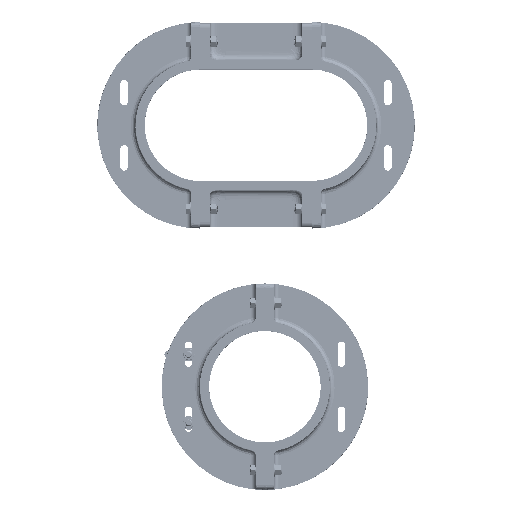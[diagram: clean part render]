
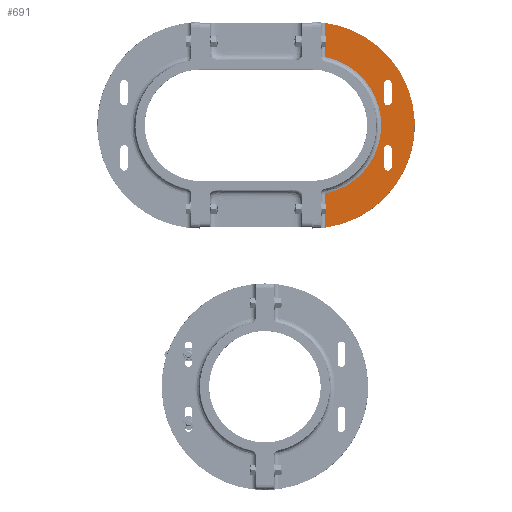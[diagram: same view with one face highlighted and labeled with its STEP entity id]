
A CAD part, top view. The second image highlights one B-rep face of the part: STEP entity #691.
In plain terms, the highlighted planar face has unit normal (0, 0, 1).
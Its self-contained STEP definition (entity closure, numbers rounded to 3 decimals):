
#207=FACE_BOUND('',#7988,.T.);
#208=FACE_BOUND('',#7989,.T.);
#691=ADVANCED_FACE('',(#4326,#207,#208),#58231,.T.);
#4326=FACE_OUTER_BOUND('',#7987,.T.);
#7987=EDGE_LOOP('',(#12514,#12515,#12516,#12517));
#7988=EDGE_LOOP('',(#12518,#12519,#12520,#12521));
#7989=EDGE_LOOP('',(#12522,#12523,#12524,#12525));
#12514=ORIENTED_EDGE('',*,*,#31335,.T.);
#12515=ORIENTED_EDGE('',*,*,#31322,.T.);
#12516=ORIENTED_EDGE('',*,*,#31332,.T.);
#12517=ORIENTED_EDGE('',*,*,#31342,.F.);
#12518=ORIENTED_EDGE('',*,*,#31345,.T.);
#12519=ORIENTED_EDGE('',*,*,#31348,.T.);
#12520=ORIENTED_EDGE('',*,*,#31347,.T.);
#12521=ORIENTED_EDGE('',*,*,#31346,.T.);
#12522=ORIENTED_EDGE('',*,*,#31357,.T.);
#12523=ORIENTED_EDGE('',*,*,#31360,.T.);
#12524=ORIENTED_EDGE('',*,*,#31359,.T.);
#12525=ORIENTED_EDGE('',*,*,#31358,.T.);
#31322=EDGE_CURVE('',#50156,#50158,#40223,.T.);
#31332=EDGE_CURVE('',#50158,#50157,#40226,.T.);
#31335=EDGE_CURVE('',#50155,#50156,#40229,.T.);
#31342=EDGE_CURVE('',#50155,#50157,#40235,.T.);
#31345=EDGE_CURVE('',#50165,#50166,#40238,.T.);
#31346=EDGE_CURVE('',#50167,#50165,#40239,.T.);
#31347=EDGE_CURVE('',#50168,#50167,#40240,.T.);
#31348=EDGE_CURVE('',#50166,#50168,#40241,.T.);
#31357=EDGE_CURVE('',#50173,#50174,#40250,.T.);
#31358=EDGE_CURVE('',#50175,#50173,#40251,.T.);
#31359=EDGE_CURVE('',#50176,#50175,#40252,.T.);
#31360=EDGE_CURVE('',#50174,#50176,#40253,.T.);
#40223=(
BOUNDED_CURVE()
B_SPLINE_CURVE(2,(#80376,#80377,#80378,#80379,#80380),.UNSPECIFIED.,.F.,
 .F.)
B_SPLINE_CURVE_WITH_KNOTS((3,2,3),(-23.248,-18.95,
-14.653),.UNSPECIFIED.)
CURVE()
GEOMETRIC_REPRESENTATION_ITEM()
RATIONAL_B_SPLINE_CURVE((1.,0.753,1.,0.753,1.))
REPRESENTATION_ITEM('')
);
#40226=(
BOUNDED_CURVE()
B_SPLINE_CURVE(1,(#80402,#80403),.UNSPECIFIED.,.F.,.F.)
B_SPLINE_CURVE_WITH_KNOTS((2,2),(0.028,1.866),
 .UNSPECIFIED.)
CURVE()
GEOMETRIC_REPRESENTATION_ITEM()
RATIONAL_B_SPLINE_CURVE((1.,1.))
REPRESENTATION_ITEM('')
);
#40229=(
BOUNDED_CURVE()
B_SPLINE_CURVE(1,(#80410,#80411),.UNSPECIFIED.,.F.,.F.)
B_SPLINE_CURVE_WITH_KNOTS((2,2),(0.21,2.048),
 .UNSPECIFIED.)
CURVE()
GEOMETRIC_REPRESENTATION_ITEM()
RATIONAL_B_SPLINE_CURVE((1.,1.))
REPRESENTATION_ITEM('')
);
#40235=(
BOUNDED_CURVE()
B_SPLINE_CURVE(2,(#80434,#80435,#80436,#80437,#80438),.UNSPECIFIED.,.F.,
 .F.)
B_SPLINE_CURVE_WITH_KNOTS((3,2,3),(0.218,5.378,10.539),
 .UNSPECIFIED.)
CURVE()
GEOMETRIC_REPRESENTATION_ITEM()
RATIONAL_B_SPLINE_CURVE((1.,0.774,1.,0.774,1.))
REPRESENTATION_ITEM('')
);
#40238=(
BOUNDED_CURVE()
B_SPLINE_CURVE(2,(#80445,#80446,#80447,#80448,#80449,#80450,#80451,#80452,
#80453),.UNSPECIFIED.,.F.,.F.)
B_SPLINE_CURVE_WITH_KNOTS((3,2,2,2,3),(1.257,1.414,
1.571,1.728,1.885),.UNSPECIFIED.)
CURVE()
GEOMETRIC_REPRESENTATION_ITEM()
RATIONAL_B_SPLINE_CURVE((1.,0.924,1.,0.924,1.,0.924,
1.,0.924,1.))
REPRESENTATION_ITEM('')
);
#40239=(
BOUNDED_CURVE()
B_SPLINE_CURVE(2,(#80454,#80455,#80456),.UNSPECIFIED.,.F.,.F.)
B_SPLINE_CURVE_WITH_KNOTS((3,3),(0.282,1.257),
 .UNSPECIFIED.)
CURVE()
GEOMETRIC_REPRESENTATION_ITEM()
RATIONAL_B_SPLINE_CURVE((1.,1.,1.))
REPRESENTATION_ITEM('')
);
#40240=(
BOUNDED_CURVE()
B_SPLINE_CURVE(2,(#80457,#80458,#80459,#80460,#80461),.UNSPECIFIED.,.F.,
 .F.)
B_SPLINE_CURVE_WITH_KNOTS((3,2,3),(-0.347,-0.033,
0.282),.UNSPECIFIED.)
CURVE()
GEOMETRIC_REPRESENTATION_ITEM()
RATIONAL_B_SPLINE_CURVE((1.,0.707,1.,0.707,1.))
REPRESENTATION_ITEM('')
);
#40241=(
BOUNDED_CURVE()
B_SPLINE_CURVE(2,(#80462,#80463,#80464),.UNSPECIFIED.,.F.,.F.)
B_SPLINE_CURVE_WITH_KNOTS((3,3),(-1.322,-0.347),
 .UNSPECIFIED.)
CURVE()
GEOMETRIC_REPRESENTATION_ITEM()
RATIONAL_B_SPLINE_CURVE((1.,1.,1.))
REPRESENTATION_ITEM('')
);
#40250=(
BOUNDED_CURVE()
B_SPLINE_CURVE(2,(#80493,#80494,#80495,#80496,#80497,#80498,#80499,#80500,
#80501),.UNSPECIFIED.,.F.,.F.)
B_SPLINE_CURVE_WITH_KNOTS((3,2,2,2,3),(1.257,1.414,
1.571,1.728,1.885),.UNSPECIFIED.)
CURVE()
GEOMETRIC_REPRESENTATION_ITEM()
RATIONAL_B_SPLINE_CURVE((1.,0.924,1.,0.924,1.,0.924,
1.,0.924,1.))
REPRESENTATION_ITEM('')
);
#40251=(
BOUNDED_CURVE()
B_SPLINE_CURVE(2,(#80502,#80503,#80504),.UNSPECIFIED.,.F.,.F.)
B_SPLINE_CURVE_WITH_KNOTS((3,3),(0.282,1.257),
 .UNSPECIFIED.)
CURVE()
GEOMETRIC_REPRESENTATION_ITEM()
RATIONAL_B_SPLINE_CURVE((1.,1.,1.))
REPRESENTATION_ITEM('')
);
#40252=(
BOUNDED_CURVE()
B_SPLINE_CURVE(2,(#80505,#80506,#80507,#80508,#80509),.UNSPECIFIED.,.F.,
 .F.)
B_SPLINE_CURVE_WITH_KNOTS((3,2,3),(-0.347,-0.033,
0.282),.UNSPECIFIED.)
CURVE()
GEOMETRIC_REPRESENTATION_ITEM()
RATIONAL_B_SPLINE_CURVE((1.,0.707,1.,0.707,1.))
REPRESENTATION_ITEM('')
);
#40253=(
BOUNDED_CURVE()
B_SPLINE_CURVE(2,(#80510,#80511,#80512),.UNSPECIFIED.,.F.,.F.)
B_SPLINE_CURVE_WITH_KNOTS((3,3),(-1.322,-0.347),
 .UNSPECIFIED.)
CURVE()
GEOMETRIC_REPRESENTATION_ITEM()
RATIONAL_B_SPLINE_CURVE((1.,1.,1.))
REPRESENTATION_ITEM('')
);
#50155=VERTEX_POINT('',#76260);
#50156=VERTEX_POINT('',#76261);
#50157=VERTEX_POINT('',#76262);
#50158=VERTEX_POINT('',#76263);
#50165=VERTEX_POINT('',#76270);
#50166=VERTEX_POINT('',#76271);
#50167=VERTEX_POINT('',#76272);
#50168=VERTEX_POINT('',#76273);
#50173=VERTEX_POINT('',#76278);
#50174=VERTEX_POINT('',#76279);
#50175=VERTEX_POINT('',#76280);
#50176=VERTEX_POINT('',#76281);
#58231=PLANE('',#60011);
#60011=AXIS2_PLACEMENT_3D('',#75640,#62648,$);
#62648=DIRECTION('',(0.,0.,1.));
#75640=CARTESIAN_POINT('',(-9.659,-6.939,0.));
#76260=CARTESIAN_POINT('',(-8.212,-3.656,0.));
#76261=CARTESIAN_POINT('',(-8.212,-5.494,0.));
#76262=CARTESIAN_POINT('',(-8.212,3.725,0.));
#76263=CARTESIAN_POINT('',(-8.212,5.563,0.));
#76270=CARTESIAN_POINT('',(-4.633,1.305,0.));
#76271=CARTESIAN_POINT('',(-5.033,1.305,0.));
#76272=CARTESIAN_POINT('',(-4.633,2.28,0.));
#76273=CARTESIAN_POINT('',(-5.033,2.28,0.));
#76278=CARTESIAN_POINT('',(-4.633,-2.21,0.));
#76279=CARTESIAN_POINT('',(-5.033,-2.21,0.));
#76280=CARTESIAN_POINT('',(-4.633,-1.235,0.));
#76281=CARTESIAN_POINT('',(-5.033,-1.235,0.));
#80376=CARTESIAN_POINT('',(-8.212,-5.494,0.));
#80377=CARTESIAN_POINT('',(-3.383,-4.839,0.));
#80378=CARTESIAN_POINT('',(-3.383,0.035,0.));
#80379=CARTESIAN_POINT('',(-3.383,4.908,0.));
#80380=CARTESIAN_POINT('',(-8.212,5.563,0.));
#80402=CARTESIAN_POINT('',(-8.212,5.563,0.));
#80403=CARTESIAN_POINT('',(-8.212,3.725,0.));
#80410=CARTESIAN_POINT('',(-8.212,-3.656,0.));
#80411=CARTESIAN_POINT('',(-8.212,-5.494,0.));
#80434=CARTESIAN_POINT('',(-8.212,-3.656,0.));
#80435=CARTESIAN_POINT('',(-5.196,-3.043,0.));
#80436=CARTESIAN_POINT('',(-5.196,0.035,0.));
#80437=CARTESIAN_POINT('',(-5.196,3.112,0.));
#80438=CARTESIAN_POINT('',(-8.212,3.725,0.));
#80445=CARTESIAN_POINT('',(-4.633,1.305,0.));
#80446=CARTESIAN_POINT('',(-4.633,1.222,0.));
#80447=CARTESIAN_POINT('',(-4.691,1.163,0.));
#80448=CARTESIAN_POINT('',(-4.75,1.105,0.));
#80449=CARTESIAN_POINT('',(-4.833,1.105,0.));
#80450=CARTESIAN_POINT('',(-4.915,1.105,0.));
#80451=CARTESIAN_POINT('',(-4.974,1.163,0.));
#80452=CARTESIAN_POINT('',(-5.033,1.222,0.));
#80453=CARTESIAN_POINT('',(-5.033,1.305,0.));
#80454=CARTESIAN_POINT('',(-4.633,2.28,0.));
#80455=CARTESIAN_POINT('',(-4.633,1.792,0.));
#80456=CARTESIAN_POINT('',(-4.633,1.305,0.));
#80457=CARTESIAN_POINT('',(-5.033,2.28,0.));
#80458=CARTESIAN_POINT('',(-5.033,2.48,0.));
#80459=CARTESIAN_POINT('',(-4.833,2.48,0.));
#80460=CARTESIAN_POINT('',(-4.633,2.48,0.));
#80461=CARTESIAN_POINT('',(-4.633,2.28,0.));
#80462=CARTESIAN_POINT('',(-5.033,1.305,0.));
#80463=CARTESIAN_POINT('',(-5.033,1.792,0.));
#80464=CARTESIAN_POINT('',(-5.033,2.28,0.));
#80493=CARTESIAN_POINT('',(-4.633,-2.21,0.));
#80494=CARTESIAN_POINT('',(-4.633,-2.293,0.));
#80495=CARTESIAN_POINT('',(-4.691,-2.352,0.));
#80496=CARTESIAN_POINT('',(-4.75,-2.41,0.));
#80497=CARTESIAN_POINT('',(-4.833,-2.41,0.));
#80498=CARTESIAN_POINT('',(-4.915,-2.41,0.));
#80499=CARTESIAN_POINT('',(-4.974,-2.352,0.));
#80500=CARTESIAN_POINT('',(-5.033,-2.293,0.));
#80501=CARTESIAN_POINT('',(-5.033,-2.21,0.));
#80502=CARTESIAN_POINT('',(-4.633,-1.235,0.));
#80503=CARTESIAN_POINT('',(-4.633,-1.723,0.));
#80504=CARTESIAN_POINT('',(-4.633,-2.21,0.));
#80505=CARTESIAN_POINT('',(-5.033,-1.235,0.));
#80506=CARTESIAN_POINT('',(-5.033,-1.035,0.));
#80507=CARTESIAN_POINT('',(-4.833,-1.035,0.));
#80508=CARTESIAN_POINT('',(-4.633,-1.035,0.));
#80509=CARTESIAN_POINT('',(-4.633,-1.235,0.));
#80510=CARTESIAN_POINT('',(-5.033,-2.21,0.));
#80511=CARTESIAN_POINT('',(-5.033,-1.723,0.));
#80512=CARTESIAN_POINT('',(-5.033,-1.235,0.));
